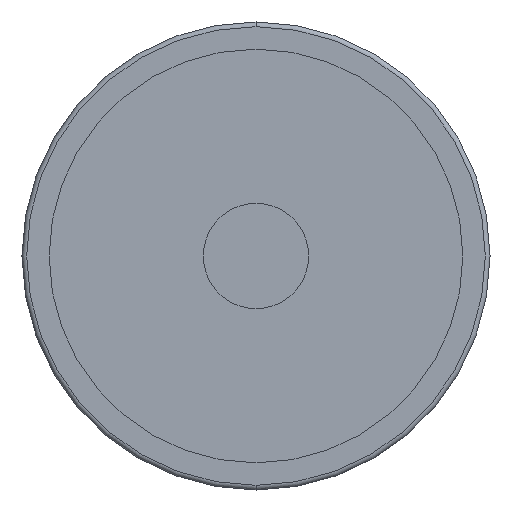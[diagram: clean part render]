
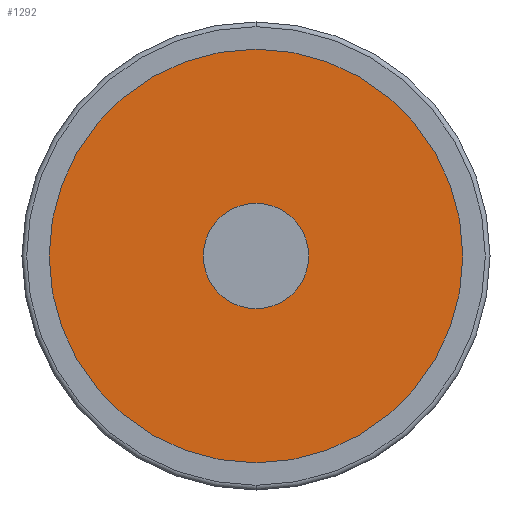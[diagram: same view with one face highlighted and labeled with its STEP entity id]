
A CAD part, front view. The second image highlights one B-rep face of the part: STEP entity #1292.
In plain terms, the highlighted planar face has unit normal (0, -1, 0).
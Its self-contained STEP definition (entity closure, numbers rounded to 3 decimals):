
#62 = EDGE_LOOP ( 'NONE', ( #2172, #1874 ) ) ;
#129 = EDGE_CURVE ( 'NONE', #2001, #688, #820, .T. ) ;
#150 = DIRECTION ( 'NONE',  ( 0., -1., 0. ) ) ;
#202 = AXIS2_PLACEMENT_3D ( 'NONE', #1472, #2250, #1128 ) ;
#264 = DIRECTION ( 'NONE',  ( 1., 0., 0. ) ) ;
#277 = DIRECTION ( 'NONE',  ( 0., -1., 0. ) ) ;
#369 = VERTEX_POINT ( 'NONE', #471 ) ;
#466 = AXIS2_PLACEMENT_3D ( 'NONE', #2088, #150, #1535 ) ;
#471 = CARTESIAN_POINT ( 'NONE',  ( 44.3, 4.5, 0. ) ) ;
#538 = CARTESIAN_POINT ( 'NONE',  ( 0., 4.5, 0. ) ) ;
#546 = AXIS2_PLACEMENT_3D ( 'NONE', #1287, #910, #746 ) ;
#554 = DIRECTION ( 'NONE',  ( 0., -1., 0. ) ) ;
#654 = FACE_OUTER_BOUND ( 'NONE', #62, .T. ) ;
#688 = VERTEX_POINT ( 'NONE', #766 ) ;
#713 = AXIS2_PLACEMENT_3D ( 'NONE', #538, #554, #1908 ) ;
#746 = DIRECTION ( 'NONE',  ( 1., 0., 0. ) ) ;
#766 = CARTESIAN_POINT ( 'NONE',  ( -10.25, 4.5, 0. ) ) ;
#770 = EDGE_CURVE ( 'NONE', #688, #2001, #1640, .T. ) ;
#820 = CIRCLE ( 'NONE', #466, 10.25 ) ;
#910 = DIRECTION ( 'NONE',  ( 0., -1., 0. ) ) ;
#946 = CIRCLE ( 'NONE', #202, 44.3 ) ;
#978 = CARTESIAN_POINT ( 'NONE',  ( 10.25, 4.5, 0. ) ) ;
#1117 = AXIS2_PLACEMENT_3D ( 'NONE', #1217, #277, #264 ) ;
#1128 = DIRECTION ( 'NONE',  ( 1., 0., 0. ) ) ;
#1144 = EDGE_CURVE ( 'NONE', #369, #2064, #946, .T. ) ;
#1217 = CARTESIAN_POINT ( 'NONE',  ( -44.3, 4.5, 0. ) ) ;
#1240 = CIRCLE ( 'NONE', #713, 44.3 ) ;
#1244 = PLANE ( 'NONE',  #1117 ) ;
#1287 = CARTESIAN_POINT ( 'NONE',  ( 0., 4.5, 0. ) ) ;
#1292 = ADVANCED_FACE ( 'NONE', ( #654, #2207 ), #1244, .T. ) ;
#1440 = ORIENTED_EDGE ( 'NONE', *, *, #129, .F. ) ;
#1472 = CARTESIAN_POINT ( 'NONE',  ( 0., 4.5, 0. ) ) ;
#1535 = DIRECTION ( 'NONE',  ( 1., 0., 0. ) ) ;
#1564 = EDGE_LOOP ( 'NONE', ( #1440, #2198 ) ) ;
#1640 = CIRCLE ( 'NONE', #546, 10.25 ) ;
#1693 = CARTESIAN_POINT ( 'NONE',  ( -44.3, 4.5, 0. ) ) ;
#1874 = ORIENTED_EDGE ( 'NONE', *, *, #1144, .T. ) ;
#1908 = DIRECTION ( 'NONE',  ( 1., 0., 0. ) ) ;
#2001 = VERTEX_POINT ( 'NONE', #978 ) ;
#2064 = VERTEX_POINT ( 'NONE', #1693 ) ;
#2075 = EDGE_CURVE ( 'NONE', #2064, #369, #1240, .T. ) ;
#2088 = CARTESIAN_POINT ( 'NONE',  ( 0., 4.5, 0. ) ) ;
#2172 = ORIENTED_EDGE ( 'NONE', *, *, #2075, .T. ) ;
#2198 = ORIENTED_EDGE ( 'NONE', *, *, #770, .F. ) ;
#2207 = FACE_BOUND ( 'NONE', #1564, .T. ) ;
#2250 = DIRECTION ( 'NONE',  ( 0., -1., 0. ) ) ;
